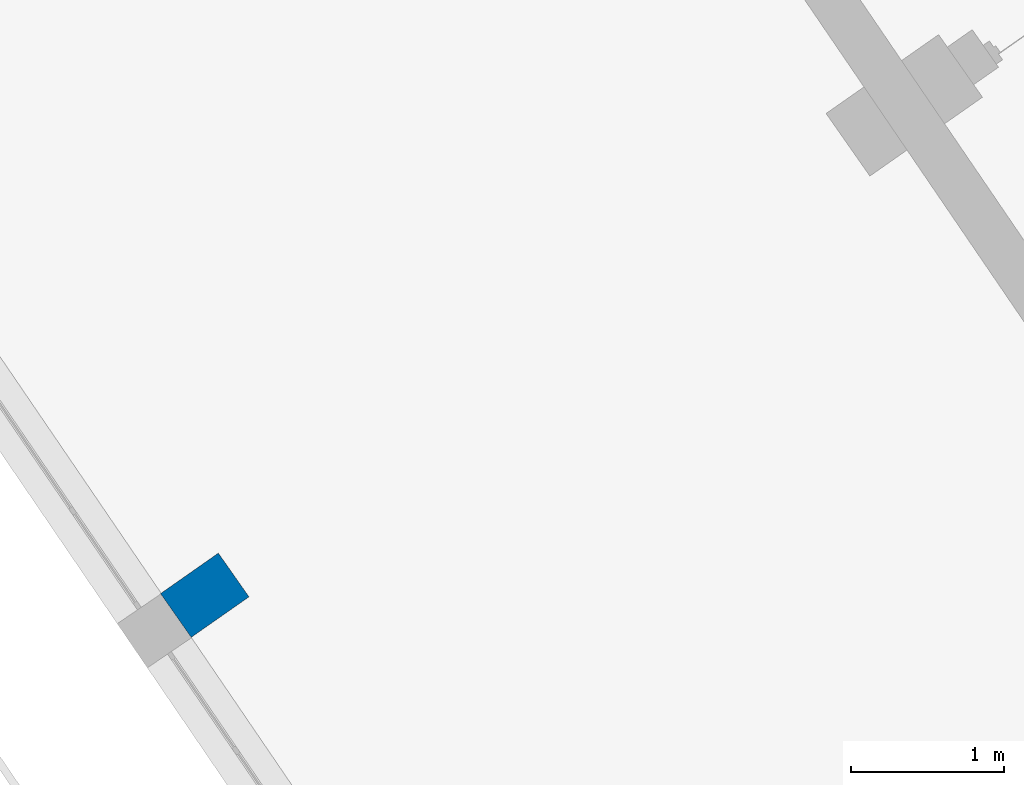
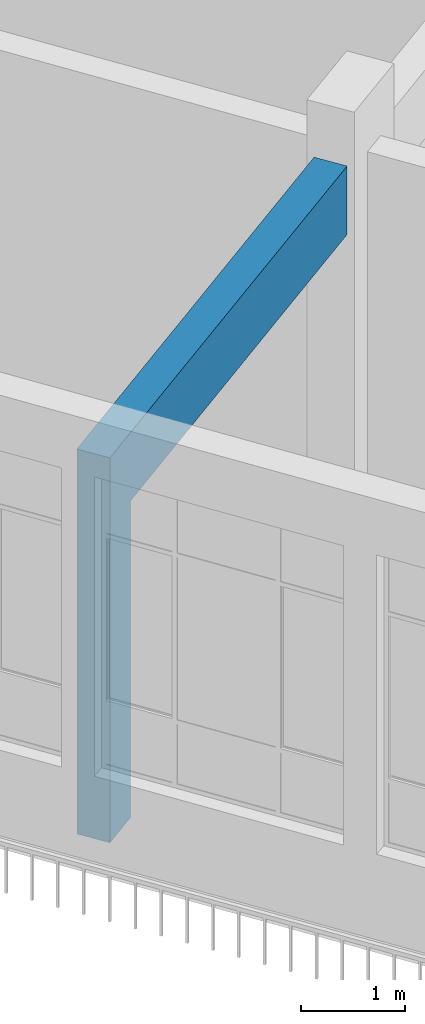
# One storey, part 81 of 157: 1 wall, 1 opening.
"""IFC2X3 building model written with IfcOpenShell, lengths in millimetres."""

from ifc_helpers import new_model, entity, si_unit, converted_unit, derived_unit, direction, frame, frame_2d, origin, place, context, subcontext, project, spatial, rectangle, extrude, material, layer, layer_set, layer_usage, type_object, element, save


model = new_model("IFC2X3")

# Units and contexts
model_context = context("Model", 3, precision=0.01, world=origin(), true_north=direction((6.123031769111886e-17, 1.0)))
body_context = subcontext(model_context, "Body", "Model", "MODEL_VIEW")
ifc_project = project(units=[si_unit("LENGTHUNIT", "METRE", prefix="MILLI"), si_unit("AREAUNIT", "SQUARE_METRE"), si_unit("VOLUMEUNIT", "CUBIC_METRE"), converted_unit("PLANEANGLEUNIT", "DEGREE", entity("IfcRatioMeasure", 0.017453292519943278), si_unit("PLANEANGLEUNIT", "RADIAN"), dimensions=[0, 0, 0, 0, 0, 0, 0]), si_unit("MASSUNIT", "GRAM", prefix="KILO"), derived_unit("MASSDENSITYUNIT", [(si_unit("MASSUNIT", "GRAM", prefix="KILO"), 1), (si_unit("LENGTHUNIT", "METRE"), -3)]), derived_unit("MOMENTOFINERTIAUNIT", [(si_unit("LENGTHUNIT", "METRE"), 4)]), si_unit("TIMEUNIT", "SECOND"), si_unit("FREQUENCYUNIT", "HERTZ"), si_unit("THERMODYNAMICTEMPERATUREUNIT", "DEGREE_CELSIUS"), derived_unit("THERMALTRANSMITTANCEUNIT", [(si_unit("MASSUNIT", "GRAM", prefix="KILO"), 1), (si_unit("THERMODYNAMICTEMPERATUREUNIT", "KELVIN"), -1), (si_unit("TIMEUNIT", "SECOND"), -3)]), derived_unit("THERMALCONDUCTANCEUNIT", [(si_unit("MASSUNIT", "GRAM", prefix="KILO"), 1), (si_unit("LENGTHUNIT", "METRE"), 1), (si_unit("THERMODYNAMICTEMPERATUREUNIT", "KELVIN"), -1), (si_unit("TIMEUNIT", "SECOND"), -3)]), derived_unit("VOLUMETRICFLOWRATEUNIT", [(si_unit("LENGTHUNIT", "METRE"), 3), (si_unit("TIMEUNIT", "SECOND"), -1)]), derived_unit("MASSFLOWRATEUNIT", [(si_unit("MASSUNIT", "GRAM", prefix="KILO"), 1), (si_unit("TIMEUNIT", "SECOND"), -1)]), derived_unit("ROTATIONALFREQUENCYUNIT", [(si_unit("TIMEUNIT", "SECOND"), -1)]), si_unit("ELECTRICCURRENTUNIT", "AMPERE"), si_unit("ELECTRICVOLTAGEUNIT", "VOLT"), si_unit("POWERUNIT", "WATT"), converted_unit("FORCEUNIT", "KIP", entity("IfcRatioMeasure", 2.088543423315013e-05), si_unit("FORCEUNIT", "NEWTON"), dimensions=[1, 1, -2, 0, 0, 0, 0]), si_unit("ILLUMINANCEUNIT", "LUX"), si_unit("LUMINOUSFLUXUNIT", "LUMEN"), si_unit("LUMINOUSINTENSITYUNIT", "CANDELA"), derived_unit("USERDEFINED", [(si_unit("MASSUNIT", "GRAM", prefix="KILO"), -1), (si_unit("LENGTHUNIT", "METRE"), -2), (si_unit("TIMEUNIT", "SECOND"), 3), (si_unit("LUMINOUSFLUXUNIT", "LUMEN"), 1)]), derived_unit("USERDEFINED", [(si_unit("MASSUNIT", "GRAM", prefix="KILO"), 1), (si_unit("LENGTHUNIT", "METRE"), 3), (si_unit("TIMEUNIT", "SECOND"), -3), (si_unit("ELECTRICCURRENTUNIT", "AMPERE"), -2)]), derived_unit("USERDEFINED", [(si_unit("LENGTHUNIT", "METRE"), 2), (si_unit("TIMEUNIT", "SECOND"), -2)]), derived_unit("SOUNDPOWERUNIT", [(si_unit("MASSUNIT", "GRAM", prefix="KILO"), 1), (si_unit("LENGTHUNIT", "METRE"), 2), (si_unit("TIMEUNIT", "SECOND"), -3)]), derived_unit("SOUNDPRESSUREUNIT", [(si_unit("MASSUNIT", "GRAM", prefix="KILO"), 1), (si_unit("LENGTHUNIT", "METRE"), -1), (si_unit("TIMEUNIT", "SECOND"), -2)]), derived_unit("LINEARVELOCITYUNIT", [(si_unit("LENGTHUNIT", "METRE"), 1), (si_unit("TIMEUNIT", "SECOND"), -1)]), si_unit("PRESSUREUNIT", "PASCAL"), derived_unit("USERDEFINED", [(si_unit("LENGTHUNIT", "METRE"), -2), (si_unit("MASSUNIT", "GRAM", prefix="KILO"), 1), (si_unit("TIMEUNIT", "SECOND"), -2)]), derived_unit("LINEARFORCEUNIT", [(si_unit("MASSUNIT", "GRAM", prefix="KILO"), 1), (si_unit("LENGTHUNIT", "METRE"), 1), (si_unit("TIMEUNIT", "SECOND"), -2), (si_unit("LENGTHUNIT", "METRE"), -1)]), derived_unit("PLANARFORCEUNIT", [(si_unit("MASSUNIT", "GRAM", prefix="KILO"), 1), (si_unit("LENGTHUNIT", "METRE"), 1), (si_unit("TIMEUNIT", "SECOND"), -2), (si_unit("LENGTHUNIT", "METRE"), -2)]), derived_unit("SPECIFICHEATCAPACITYUNIT", [(si_unit("LENGTHUNIT", "METRE"), 2), (si_unit("TIMEUNIT", "SECOND"), -2), (si_unit("THERMODYNAMICTEMPERATUREUNIT", "KELVIN"), -1)]), derived_unit("VAPORPERMEABILITYUNIT", [(si_unit("TIMEUNIT", "SECOND"), 1), (si_unit("LENGTHUNIT", "METRE"), -1)]), derived_unit("DYNAMICVISCOSITYUNIT", [(si_unit("MASSUNIT", "GRAM", prefix="KILO"), 1), (si_unit("LENGTHUNIT", "METRE"), -1), (si_unit("TIMEUNIT", "SECOND"), -1)]), derived_unit("THERMALEXPANSIONCOEFFICIENTUNIT", [(si_unit("THERMODYNAMICTEMPERATUREUNIT", "KELVIN"), -1)])], contexts=[model_context])

# Site, building, storey
site_placement = place(None, frame((0.0, 0.0, 0.0), z_axis=(0.0, 0.0, 1.0), x_axis=(0.8191520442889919, 0.5735764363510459, 0.0)))
site = spatial("IfcSite", under=ifc_project, at=site_placement, Name="Default", CompositionType="ELEMENT")
building_placement = place(site_placement, origin())
building = spatial("IfcBuilding", under=site, at=building_placement, CompositionType="ELEMENT")
storey_placement = place(building_placement, origin())
storey = spatial("IfcBuildingStorey", under=building, at=storey_placement, Name="1.EG +0.00", CompositionType="ELEMENT", Elevation=-4.331468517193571e-12)

# Wall, opening
ifc_material = material(Name="Analytical Wall Surface_CJC")
ifc_layer = layer(ifc_material, 350.0)
ifc_layer_set = layer_set([ifc_layer], Name="Basic Wall:Wand_Innen_35")
ifc_layer_usage = layer_usage(ifc_layer_set, "AXIS2", "NEGATIVE", 175.0)
wall_type = type_object("IfcWallType", Name="Basic Wall:Wand_Innen_35", PredefinedType="STANDARD", material=ifc_layer_set)
wall_placement = place(storey_placement, frame((-223136.2378085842, 85395.38662055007, 0.0)))
wall = element("IfcWallStandardCase", 1, at=wall_placement, inside=storey, type_object=wall_type, material=ifc_layer_usage, Name="Basic Wall:Wand_Innen_35", ObjectType="Basic Wall:Wand_Innen_35", context=body_context, shape_type="SweptSolid", body=[
    extrude(rectangle(XDim=5378.149586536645, YDim=349.9999999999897, at=frame_2d((2689.0747932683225, -1.3358203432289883e-12), x_axis=(-1.0, 0.0))), origin(), (0.0, 0.0, 1.0), 4500.0),
])
opening_placement = place(wall_placement, origin())
element("IfcOpeningElement", 2, at=opening_placement, cuts=wall, Name="Basic Wall:Wand_Innen_35", ObjectType="Opening", context=body_context, shape_type="SweptSolid", body=[
    extrude(rectangle(XDim=3699.9999999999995, YDim=4916.084830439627, at=frame_2d((1.7280399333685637e-11, 0.0), x_axis=(0.0, 1.0))), frame((2920.1071713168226, 175.0, 1850.0), z_axis=(0.0, -1.0, 0.0), x_axis=(1.0, 0.0, 0.0)), (0.0, 0.0, 1.0), 350.0),
])

save(model, "model.ifc")
